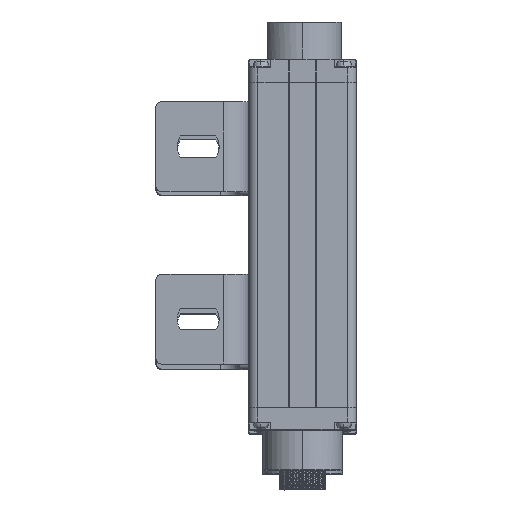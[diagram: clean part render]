
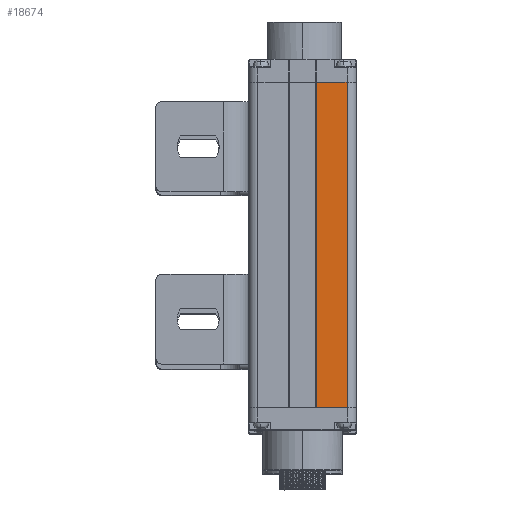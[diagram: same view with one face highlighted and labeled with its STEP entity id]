
A CAD part, top view. The second image highlights one B-rep face of the part: STEP entity #18674.
In plain terms, the highlighted planar face has unit normal (0, 0.001, 1).
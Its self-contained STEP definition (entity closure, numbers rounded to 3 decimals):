
#6995 = VECTOR ( 'NONE', #184388, 1000. ) ;
#13125 = EDGE_CURVE ( 'NONE', #109098, #86484, #88137, .T. ) ;
#18674 = ADVANCED_FACE ( 'NONE', ( #149958 ), #48273, .T. ) ;
#19932 = CARTESIAN_POINT ( 'NONE',  ( 3.005, 105., 25.075 ) ) ;
#23402 = CARTESIAN_POINT ( 'NONE',  ( 12.89, 0., 25.075 ) ) ;
#24982 = CARTESIAN_POINT ( 'NONE',  ( 12.89, 0., 25.075 ) ) ;
#36158 = EDGE_CURVE ( 'NONE', #61469, #109098, #87025, .T. ) ;
#38147 = DIRECTION ( 'NONE',  ( 0., -1., 0. ) ) ;
#39773 = ORIENTED_EDGE ( 'NONE', *, *, #115361, .T. ) ;
#48273 = PLANE ( 'NONE',  #126445 ) ;
#51431 = ORIENTED_EDGE ( 'NONE', *, *, #36158, .F. ) ;
#53279 = VECTOR ( 'NONE', #162873, 1000. ) ;
#61469 = VERTEX_POINT ( 'NONE', #19932 ) ;
#61947 = DIRECTION ( 'NONE',  ( 0., 0., 1. ) ) ;
#64813 = CARTESIAN_POINT ( 'NONE',  ( 3.005, 0., 25.075 ) ) ;
#66828 = EDGE_CURVE ( 'NONE', #104951, #86484, #93214, .T. ) ;
#68407 = CARTESIAN_POINT ( 'NONE',  ( 3.005, 0., 25.075 ) ) ;
#71423 = CARTESIAN_POINT ( 'NONE',  ( 0., 105., 25.075 ) ) ;
#72612 = LINE ( 'NONE', #151124, #134827 ) ;
#86484 = VERTEX_POINT ( 'NONE', #23402 ) ;
#87025 = LINE ( 'NONE', #71423, #6995 ) ;
#88137 = LINE ( 'NONE', #24982, #161333 ) ;
#93214 = LINE ( 'NONE', #64813, #53279 ) ;
#104951 = VERTEX_POINT ( 'NONE', #68407 ) ;
#109098 = VERTEX_POINT ( 'NONE', #149863 ) ;
#113754 = ORIENTED_EDGE ( 'NONE', *, *, #13125, .F. ) ;
#115361 = EDGE_CURVE ( 'NONE', #61469, #104951, #72612, .T. ) ;
#124062 = ORIENTED_EDGE ( 'NONE', *, *, #66828, .T. ) ;
#126445 = AXIS2_PLACEMENT_3D ( 'NONE', #133896, #61947, #161222 ) ;
#133896 = CARTESIAN_POINT ( 'NONE',  ( 3.005, 0., 25.075 ) ) ;
#134827 = VECTOR ( 'NONE', #38147, 1000. ) ;
#149863 = CARTESIAN_POINT ( 'NONE',  ( 12.89, 105., 25.075 ) ) ;
#149958 = FACE_OUTER_BOUND ( 'NONE', #149992, .T. ) ;
#149992 = EDGE_LOOP ( 'NONE', ( #39773, #124062, #113754, #51431 ) ) ;
#151124 = CARTESIAN_POINT ( 'NONE',  ( 3.005, 0., 25.075 ) ) ;
#161222 = DIRECTION ( 'NONE',  ( 1., 0., 0. ) ) ;
#161333 = VECTOR ( 'NONE', #182636, 1000. ) ;
#162873 = DIRECTION ( 'NONE',  ( 1., 0., 0. ) ) ;
#182636 = DIRECTION ( 'NONE',  ( 0., -1., 0. ) ) ;
#184388 = DIRECTION ( 'NONE',  ( 1., 0., 0. ) ) ;
